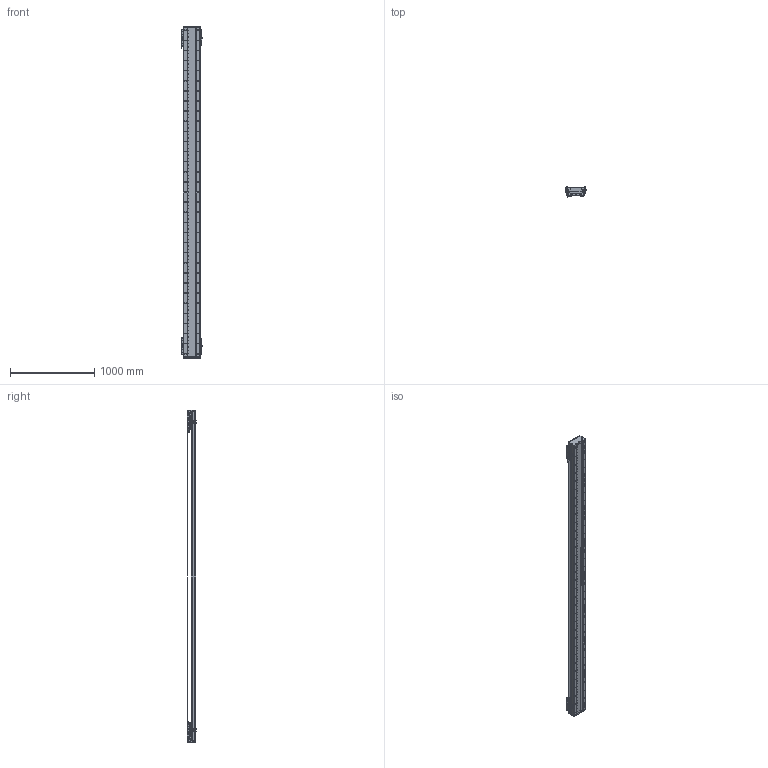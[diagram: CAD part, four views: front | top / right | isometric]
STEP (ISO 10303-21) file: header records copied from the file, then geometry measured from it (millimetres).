
FILE_DESCRIPTION (( 'STEP AP203' ), '1' );
FILE_NAME ('DA-C195-2-C2-T3440-C010-0.2 眻盄萇儂.STEP', '2025-08-14T02:18:31', ( '' ), ( '' ), 'SwSTEP 2.0', 'SolidWorks 2019', '' );
FILE_SCHEMA (( 'CONFIG_CONTROL_DESIGN' ));
Length unit declared in the file: millimetre
Products named in the file (19): DA195詩湍嶺輸-1; MS200 棠掑喜S315-T1740-1; DA195詩湍裔啣-1; CU195-C2賑輸-俋楷-1; IU-CU195-L-00 菁釱(L3900); DA195詩湍郪璃-1; LMT黍杅芛-1; IU-CU195-L 菁釱絳寢-1; DA195詩湍菜輸-1; DA95-HXJ-00 遣喳砎蝶-1; DKW168-HXJ-ZJ-00 笢潔滅袉砎蝶-1; DKW-GYP-ZJ-00 笢潔嫖萇覜茼え-1; DA-C195-GD-DB-H-00 傷啣-1; DA-C195-2-C2-T3440-C010-0.2 眻盄萇儂; PM-Y65嫖萇羲壽郪璃-1; DKW-KGZ-ZJ-00 中间光电开关支架-1; 葩璃 DA95-GT-T-00-1; DA165-GYP-00 光电感应片(默认)-1; PM-T45ㄗ侂狟ㄘ-1
Assembly tree (37 placements, depth 3):
  DA-C195-2-C2-T3440-C010-0.2 眻盄萇儂
    DA195詩湍郪璃-1
      DA195詩湍菜輸-1  x2
      DA195詩湍裔啣-1
      DA195詩湍嶺輸-1  x2
      DA95-HXJ-00 遣喳砎蝶-1  x8
      DA-C195-GD-DB-H-00 傷啣-1  x2
    IU-CU195-L 菁釱絳寢-1
      IU-CU195-L-00 菁釱(L3900)
      葩璃 DA95-GT-T-00-1  x4
    LMT黍杅芛-1  x2
    MS200 棠掑喜S315-T1740-1
    PM-T45ㄗ侂狟ㄘ-1  x4
    DA165-GYP-00 光电感应片(默认)-1  x2
    PM-Y65嫖萇羲壽郪璃-1
    DKW168-HXJ-ZJ-00 笢潔滅袉砎蝶-1
    DKW-GYP-ZJ-00 笢潔嫖萇覜茼え-1
    DKW-KGZ-ZJ-00 中间光电开关支架-1
    CU195-C2賑輸-俋楷-1  x2
Bounding box: 258.2 x 115.45 x 3940 mm (x, y, z)
Volume: 22901496 mm3; surface area: 6771619.5 mm2
Topology: 114 solids, 242 shells, 7567 faces, 20735 edges, 12993 vertices
Faces by surface type: cylinder 3836, plane 2647, cone 916, torus 88, sphere 72, bspline 8
Entity records: 180045 total; most frequent: CARTESIAN_POINT 51991, ORIENTED_EDGE 27302, DIRECTION 25194, EDGE_CURVE 13651, AXIS2_PLACEMENT_3D 9333, VERTEX_POINT 8880, LINE 6528, VECTOR 6528
